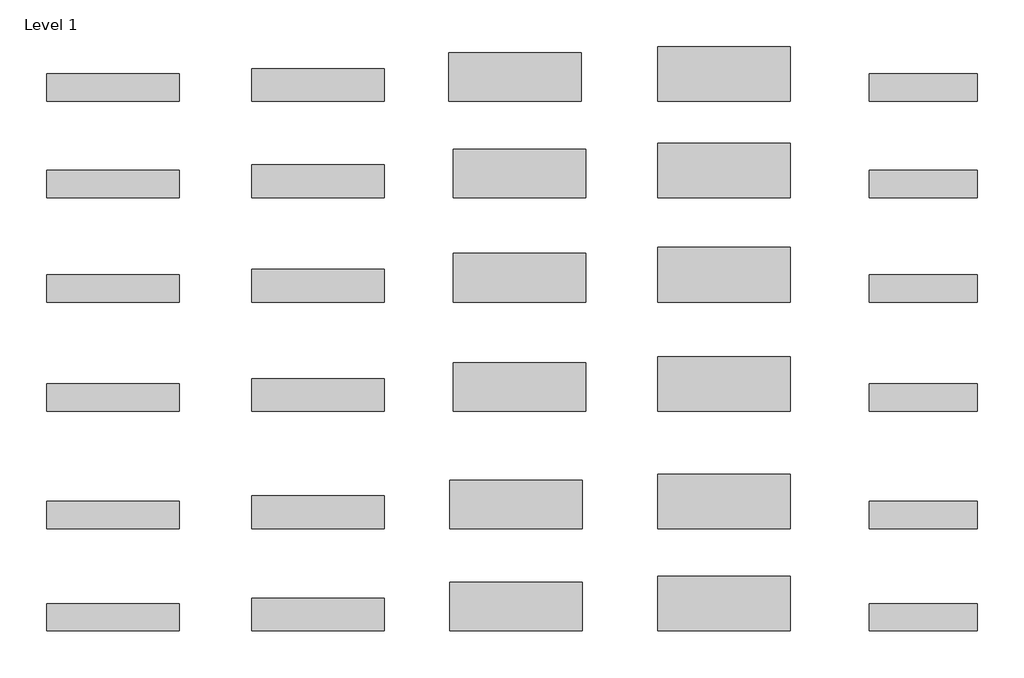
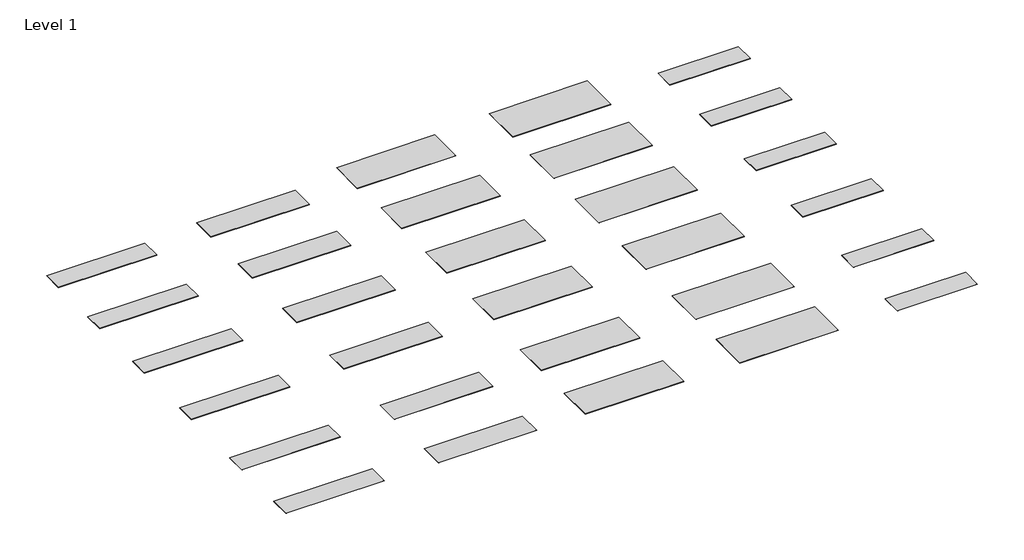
# One storey: 30 proxies.
"""IFC4 building model written with IfcOpenShell, lengths in millimetres."""

from ifc_helpers import new_model, si_unit, origin, place, context, project, spatial, transform, mapped, element, save
from components import generic_models_7f56e2ab, generic_models_a6e596b7, generic_models_ebb0e17e, generic_models_c2ce3097, generic_models_bc4f7f2a

model = new_model("IFC4")

# Units and contexts
model_context = context("Model", 3, world=origin())
ifc_project = project(units=[si_unit("LENGTHUNIT", "METRE", prefix="MILLI")], contexts=[model_context])

# Site, building, storey
site = spatial("IfcSite", under=ifc_project)
building = spatial("IfcBuilding", under=site)
storey = spatial("IfcBuildingStorey", under=building, Name="Level 1", Elevation=0.0)

# Proxies
placement = place(None, origin())
generic_models_shape = generic_models_7f56e2ab(model_context)
element("IfcBuildingElementProxy", 1, Name="Kitchen_Counter-Tops_Indoor-Material_HI-MACS_Volcanics : VA22_Frosty_12mm_760x3680mm", ObjectType="Kitchen_Counter-Tops_Indoor-Material_HI-MACS_Volcanics : VA22_Frosty_12mm_760x3680mm", at=placement, inside=storey, context=model_context, shape_type="MappedRepresentation", body=[
    mapped(generic_models_shape, transform((-20811.8590579, -10489.5098521, 0.0), x_axis=(1.0, 0.0, 0.0), y_axis=(0.0, 1.0, 0.0), z_axis=(0.0, 0.0, 1.0))),
])
element("IfcBuildingElementProxy", 2, Name="Kitchen_Counter-Tops_Indoor-Material_HI-MACS_Volcanics : VW01_Gemini_12mm_760x3680mm", ObjectType="Kitchen_Counter-Tops_Indoor-Material_HI-MACS_Volcanics : VW01_Gemini_12mm_760x3680mm", at=placement, inside=storey, context=model_context, shape_type="MappedRepresentation", body=[
    mapped(generic_models_shape, transform((-20811.8590579, 4227.8111796, 0.0), x_axis=(1.0, 0.0, 0.0), y_axis=(0.0, 1.0, 0.0), z_axis=(0.0, 0.0, 1.0))),
])
element("IfcBuildingElementProxy", 3, Name="Kitchen_Counter-Tops_Indoor-Material_HI-MACS_Volcanics : VG21_Maui_12mm_760x3680mm", ObjectType="Kitchen_Counter-Tops_Indoor-Material_HI-MACS_Volcanics : VG21_Maui_12mm_760x3680mm", at=placement, inside=storey, context=model_context, shape_type="MappedRepresentation", body=[
    mapped(generic_models_shape, transform((-20811.8590579, 1546.9863467, 0.0), x_axis=(1.0, 0.0, 0.0), y_axis=(0.0, 1.0, 0.0), z_axis=(0.0, 0.0, 1.0))),
])
element("IfcBuildingElementProxy", 4, Name="Kitchen_Counter-Tops_Indoor-Material_HI-MACS_Volcanics : VA01_Santa-Ana_12mm_760x3680mm", ObjectType="Kitchen_Counter-Tops_Indoor-Material_HI-MACS_Volcanics : VA01_Santa-Ana_12mm_760x3680mm", at=placement, inside=storey, context=model_context, shape_type="MappedRepresentation", body=[
    mapped(generic_models_shape, transform((-20811.8590579, -7648.7350843, 0.0), x_axis=(1.0, 0.0, 0.0), y_axis=(0.0, 1.0, 0.0), z_axis=(0.0, 0.0, 1.0))),
])
element("IfcBuildingElementProxy", 5, Name="Kitchen_Counter-Tops_Indoor-Material_HI-MACS_Volcanics : VE01_Tambora_12mm_760x3680mm", ObjectType="Kitchen_Counter-Tops_Indoor-Material_HI-MACS_Volcanics : VE01_Tambora_12mm_760x3680mm", at=placement, inside=storey, context=model_context, shape_type="MappedRepresentation", body=[
    mapped(generic_models_shape, transform((-20811.8590579, -4386.1881754, 0.0), x_axis=(1.0, 0.0, 0.0), y_axis=(0.0, 1.0, 0.0), z_axis=(0.0, 0.0, 1.0))),
])
generic_models_2_shape = generic_models_a6e596b7(model_context)
element("IfcBuildingElementProxy", 6, Name="Kitchen_Counter-Tops_Indoor-Material_HI-MACS_Volcanics : VW01_Gemini_20mm_760x3000mm", ObjectType="Kitchen_Counter-Tops_Indoor-Material_HI-MACS_Volcanics : VW01_Gemini_20mm_760x3000mm", at=placement, inside=storey, context=model_context, shape_type="MappedRepresentation", body=[
    mapped(generic_models_2_shape, transform((1711.211602, 4227.8111796, 0.0), x_axis=(1.0, 0.0, 0.0), y_axis=(0.0, 1.0, 0.0), z_axis=(0.0, 0.0, 1.0))),
])
element("IfcBuildingElementProxy", 7, Name="Kitchen_Counter-Tops_Indoor-Material_HI-MACS_Volcanics : VE01_Tambora_20mm_760x3000mm", ObjectType="Kitchen_Counter-Tops_Indoor-Material_HI-MACS_Volcanics : VE01_Tambora_20mm_760x3000mm", at=placement, inside=storey, context=model_context, shape_type="MappedRepresentation", body=[
    mapped(generic_models_2_shape, transform((1711.211602, -4386.1881754, 0.0), x_axis=(1.0, 0.0, 0.0), y_axis=(0.0, 1.0, 0.0), z_axis=(0.0, 0.0, 1.0))),
])
element("IfcBuildingElementProxy", 8, Name="Kitchen_Counter-Tops_Indoor-Material_HI-MACS_Volcanics : VA01_Santa-Ana_20mm_760x3000mm", ObjectType="Kitchen_Counter-Tops_Indoor-Material_HI-MACS_Volcanics : VA01_Santa-Ana_20mm_760x3000mm", at=placement, inside=storey, context=model_context, shape_type="MappedRepresentation", body=[
    mapped(generic_models_2_shape, transform((1711.211602, -7648.7350843, 0.0), x_axis=(1.0, 0.0, 0.0), y_axis=(0.0, 1.0, 0.0), z_axis=(0.0, 0.0, 1.0))),
])
element("IfcBuildingElementProxy", 9, Name="Kitchen_Counter-Tops_Indoor-Material_HI-MACS_Volcanics : VA22_Frosty_20mm_760x3000mm", ObjectType="Kitchen_Counter-Tops_Indoor-Material_HI-MACS_Volcanics : VA22_Frosty_20mm_760x3000mm", at=placement, inside=storey, context=model_context, shape_type="MappedRepresentation", body=[
    mapped(generic_models_2_shape, transform((1711.211602, -10489.5098521, 0.0), x_axis=(1.0, 0.0, 0.0), y_axis=(0.0, 1.0, 0.0), z_axis=(0.0, 0.0, 1.0))),
])
element("IfcBuildingElementProxy", 10, Name="Kitchen_Counter-Tops_Indoor-Material_HI-MACS_Volcanics : VG21_Maui_20mm_760x3000mm", ObjectType="Kitchen_Counter-Tops_Indoor-Material_HI-MACS_Volcanics : VG21_Maui_20mm_760x3000mm", at=placement, inside=storey, context=model_context, shape_type="MappedRepresentation", body=[
    mapped(generic_models_2_shape, transform((1711.211602, 1546.9863467, 0.0), x_axis=(1.0, 0.0, 0.0), y_axis=(0.0, 1.0, 0.0), z_axis=(0.0, 0.0, 1.0))),
])
generic_models_3_shape = generic_models_ebb0e17e(model_context)
element("IfcBuildingElementProxy", 11, Name="Kitchen_Counter-Tops_Indoor-Material_HI-MACS_Volcanics : VW01_Gemini_12mm_910x3680mm", ObjectType="Kitchen_Counter-Tops_Indoor-Material_HI-MACS_Volcanics : VW01_Gemini_12mm_910x3680mm", at=placement, inside=storey, context=model_context, shape_type="MappedRepresentation", body=[
    mapped(generic_models_3_shape, transform((-15111.8590579, 4302.8111796, 0.0), x_axis=(1.0, 0.0, 0.0), y_axis=(0.0, 1.0, 0.0), z_axis=(0.0, 0.0, 1.0))),
])
generic_models_4_shape = generic_models_c2ce3097(model_context)
element("IfcBuildingElementProxy", 12, Name="Kitchen_Counter-Tops_Indoor-Material_HI-MACS_Volcanics : VW01_Gemini_12mm_1350x3680mm", ObjectType="Kitchen_Counter-Tops_Indoor-Material_HI-MACS_Volcanics : VW01_Gemini_12mm_1350x3680mm", at=placement, inside=storey, context=model_context, shape_type="MappedRepresentation", body=[
    mapped(generic_models_4_shape, transform((-9631.8590579, 4522.8111796, 0.0), x_axis=(1.0, 0.0, 0.0), y_axis=(0.0, 1.0, 0.0), z_axis=(0.0, 0.0, 1.0))),
])
generic_models_5_shape = generic_models_bc4f7f2a(model_context)
element("IfcBuildingElementProxy", 13, Name="Kitchen_Counter-Tops_Indoor-Material_HI-MACS_Volcanics : VW01_Gemini_12mm_1520x3680mm", ObjectType="Kitchen_Counter-Tops_Indoor-Material_HI-MACS_Volcanics : VW01_Gemini_12mm_1520x3680mm", at=placement, inside=storey, context=model_context, shape_type="MappedRepresentation", body=[
    mapped(generic_models_5_shape, transform((-3831.8590579, 4607.8111796, 0.0), x_axis=(1.0, 0.0, 0.0), y_axis=(0.0, 1.0, 0.0), z_axis=(0.0, 0.0, 1.0))),
])
element("IfcBuildingElementProxy", 14, Name="Kitchen_Counter-Tops_Indoor-Material_HI-MACS_Volcanics : VG21_Maui_12mm_910x3680mm", ObjectType="Kitchen_Counter-Tops_Indoor-Material_HI-MACS_Volcanics : VG21_Maui_12mm_910x3680mm", at=placement, inside=storey, context=model_context, shape_type="MappedRepresentation", body=[
    mapped(generic_models_3_shape, transform((-15111.8590579, 1621.9863467, 0.0), x_axis=(1.0, 0.0, 0.0), y_axis=(0.0, 1.0, 0.0), z_axis=(0.0, 0.0, 1.0))),
])
element("IfcBuildingElementProxy", 15, Name="Kitchen_Counter-Tops_Indoor-Material_HI-MACS_Volcanics : VG21_Maui_12mm_1350x3680mm", ObjectType="Kitchen_Counter-Tops_Indoor-Material_HI-MACS_Volcanics : VG21_Maui_12mm_1350x3680mm", at=placement, inside=storey, context=model_context, shape_type="MappedRepresentation", body=[
    mapped(generic_models_4_shape, transform((-9511.8590579, 1841.9863467, 0.0), x_axis=(1.0, 0.0, 0.0), y_axis=(0.0, 1.0, 0.0), z_axis=(0.0, 0.0, 1.0))),
])
element("IfcBuildingElementProxy", 16, Name="Kitchen_Counter-Tops_Indoor-Material_HI-MACS_Volcanics : VG21_Maui_12mm_1520x3680mm", ObjectType="Kitchen_Counter-Tops_Indoor-Material_HI-MACS_Volcanics : VG21_Maui_12mm_1520x3680mm", at=placement, inside=storey, context=model_context, shape_type="MappedRepresentation", body=[
    mapped(generic_models_5_shape, transform((-3831.8590579, 1926.9863467, 0.0), x_axis=(1.0, 0.0, 0.0), y_axis=(0.0, 1.0, 0.0), z_axis=(0.0, 0.0, 1.0))),
])
element("IfcBuildingElementProxy", 17, Name="Kitchen_Counter-Tops_Indoor-Material_HI-MACS_Volcanics : VE01_Tambora_12mm_910x3680mm", ObjectType="Kitchen_Counter-Tops_Indoor-Material_HI-MACS_Volcanics : VE01_Tambora_12mm_910x3680mm", at=placement, inside=storey, context=model_context, shape_type="MappedRepresentation", body=[
    mapped(generic_models_3_shape, transform((-15111.8590579, -4311.1881754, 0.0), x_axis=(1.0, 0.0, 0.0), y_axis=(0.0, 1.0, 0.0), z_axis=(0.0, 0.0, 1.0))),
])
element("IfcBuildingElementProxy", 18, Name="Kitchen_Counter-Tops_Indoor-Material_HI-MACS_Volcanics : VE01_Tambora_12mm_1350x3680mm", ObjectType="Kitchen_Counter-Tops_Indoor-Material_HI-MACS_Volcanics : VE01_Tambora_12mm_1350x3680mm", at=placement, inside=storey, context=model_context, shape_type="MappedRepresentation", body=[
    mapped(generic_models_4_shape, transform((-9511.8590579, -4091.1881754, 0.0), x_axis=(1.0, 0.0, 0.0), y_axis=(0.0, 1.0, 0.0), z_axis=(0.0, 0.0, 1.0))),
])
element("IfcBuildingElementProxy", 19, Name="Kitchen_Counter-Tops_Indoor-Material_HI-MACS_Volcanics : VE01_Tambora_12mm_1520x3680mm", ObjectType="Kitchen_Counter-Tops_Indoor-Material_HI-MACS_Volcanics : VE01_Tambora_12mm_1520x3680mm", at=placement, inside=storey, context=model_context, shape_type="MappedRepresentation", body=[
    mapped(generic_models_5_shape, transform((-3831.8590579, -4006.1881754, 0.0), x_axis=(1.0, 0.0, 0.0), y_axis=(0.0, 1.0, 0.0), z_axis=(0.0, 0.0, 1.0))),
])
element("IfcBuildingElementProxy", 20, Name="Kitchen_Counter-Tops_Indoor-Material_HI-MACS_Volcanics : VA01_Santa-Ana_12mm_910x3680mm", ObjectType="Kitchen_Counter-Tops_Indoor-Material_HI-MACS_Volcanics : VA01_Santa-Ana_12mm_910x3680mm", at=placement, inside=storey, context=model_context, shape_type="MappedRepresentation", body=[
    mapped(generic_models_3_shape, transform((-15111.8590579, -7573.7350843, 0.0), x_axis=(1.0, 0.0, 0.0), y_axis=(0.0, 1.0, 0.0), z_axis=(0.0, 0.0, 1.0))),
])
element("IfcBuildingElementProxy", 21, Name="Kitchen_Counter-Tops_Indoor-Material_HI-MACS_Volcanics : VA01_Santa-Ana_12mm_1350x3680mm", ObjectType="Kitchen_Counter-Tops_Indoor-Material_HI-MACS_Volcanics : VA01_Santa-Ana_12mm_1350x3680mm", at=placement, inside=storey, context=model_context, shape_type="MappedRepresentation", body=[
    mapped(generic_models_4_shape, transform((-9611.8590579, -7353.7350843, 0.0), x_axis=(1.0, 0.0, 0.0), y_axis=(0.0, 1.0, 0.0), z_axis=(0.0, 0.0, 1.0))),
])
element("IfcBuildingElementProxy", 22, Name="Kitchen_Counter-Tops_Indoor-Material_HI-MACS_Volcanics : VA01_Santa-Ana_12mm_1520x3680mm", ObjectType="Kitchen_Counter-Tops_Indoor-Material_HI-MACS_Volcanics : VA01_Santa-Ana_12mm_1520x3680mm", at=placement, inside=storey, context=model_context, shape_type="MappedRepresentation", body=[
    mapped(generic_models_5_shape, transform((-3831.8590579, -7268.7350843, 0.0), x_axis=(1.0, 0.0, 0.0), y_axis=(0.0, 1.0, 0.0), z_axis=(0.0, 0.0, 1.0))),
])
element("IfcBuildingElementProxy", 23, Name="Kitchen_Counter-Tops_Indoor-Material_HI-MACS_Volcanics : VA22_Frosty_12mm_910x3680mm", ObjectType="Kitchen_Counter-Tops_Indoor-Material_HI-MACS_Volcanics : VA22_Frosty_12mm_910x3680mm", at=placement, inside=storey, context=model_context, shape_type="MappedRepresentation", body=[
    mapped(generic_models_3_shape, transform((-15111.8590579, -10414.5098521, 0.0), x_axis=(1.0, 0.0, 0.0), y_axis=(0.0, 1.0, 0.0), z_axis=(0.0, 0.0, 1.0))),
])
element("IfcBuildingElementProxy", 24, Name="Kitchen_Counter-Tops_Indoor-Material_HI-MACS_Volcanics : VA22_Frosty_12mm_1350x3680mm", ObjectType="Kitchen_Counter-Tops_Indoor-Material_HI-MACS_Volcanics : VA22_Frosty_12mm_1350x3680mm", at=placement, inside=storey, context=model_context, shape_type="MappedRepresentation", body=[
    mapped(generic_models_4_shape, transform((-9611.8590579, -10194.5098521, 0.0), x_axis=(1.0, 0.0, 0.0), y_axis=(0.0, 1.0, 0.0), z_axis=(0.0, 0.0, 1.0))),
])
element("IfcBuildingElementProxy", 25, Name="Kitchen_Counter-Tops_Indoor-Material_HI-MACS_Volcanics : VA22_Frosty_12mm_1520x3680mm", ObjectType="Kitchen_Counter-Tops_Indoor-Material_HI-MACS_Volcanics : VA22_Frosty_12mm_1520x3680mm", at=placement, inside=storey, context=model_context, shape_type="MappedRepresentation", body=[
    mapped(generic_models_5_shape, transform((-3831.8590579, -10109.5098521, 0.0), x_axis=(1.0, 0.0, 0.0), y_axis=(0.0, 1.0, 0.0), z_axis=(0.0, 0.0, 1.0))),
])
element("IfcBuildingElementProxy", 26, Name="Kitchen_Counter-Tops_Indoor-Material_HI-MACS_Volcanics : VB02_Cima_12mm_1350x3680mm", ObjectType="Kitchen_Counter-Tops_Indoor-Material_HI-MACS_Volcanics : VB02_Cima_12mm_1350x3680mm", at=placement, inside=storey, context=model_context, shape_type="MappedRepresentation", body=[
    mapped(generic_models_4_shape, transform((-9511.8590579, -1056.2140637, 0.0), x_axis=(1.0, 0.0, 0.0), y_axis=(0.0, 1.0, 0.0), z_axis=(0.0, 0.0, 1.0))),
])
element("IfcBuildingElementProxy", 27, Name="Kitchen_Counter-Tops_Indoor-Material_HI-MACS_Volcanics : VB02_Cima_12mm_1520x3680mm", ObjectType="Kitchen_Counter-Tops_Indoor-Material_HI-MACS_Volcanics : VB02_Cima_12mm_1520x3680mm", at=placement, inside=storey, context=model_context, shape_type="MappedRepresentation", body=[
    mapped(generic_models_5_shape, transform((-3831.8590579, -971.2140637, 0.0), x_axis=(1.0, 0.0, 0.0), y_axis=(0.0, 1.0, 0.0), z_axis=(0.0, 0.0, 1.0))),
])
element("IfcBuildingElementProxy", 28, Name="Kitchen_Counter-Tops_Indoor-Material_HI-MACS_Volcanics : VB02_Cima_12mm_760x3680mm", ObjectType="Kitchen_Counter-Tops_Indoor-Material_HI-MACS_Volcanics : VB02_Cima_12mm_760x3680mm", at=placement, inside=storey, context=model_context, shape_type="MappedRepresentation", body=[
    mapped(generic_models_shape, transform((-20811.8590579, -1351.2140637, 0.0), x_axis=(1.0, 0.0, 0.0), y_axis=(0.0, 1.0, 0.0), z_axis=(0.0, 0.0, 1.0))),
])
element("IfcBuildingElementProxy", 29, Name="Kitchen_Counter-Tops_Indoor-Material_HI-MACS_Volcanics : VB02_Cima_12mm_910x3680mm", ObjectType="Kitchen_Counter-Tops_Indoor-Material_HI-MACS_Volcanics : VB02_Cima_12mm_910x3680mm", at=placement, inside=storey, context=model_context, shape_type="MappedRepresentation", body=[
    mapped(generic_models_3_shape, transform((-15111.8590579, -1276.2140637, 0.0), x_axis=(1.0, 0.0, 0.0), y_axis=(0.0, 1.0, 0.0), z_axis=(0.0, 0.0, 1.0))),
])
element("IfcBuildingElementProxy", 30, Name="Kitchen_Counter-Tops_Indoor-Material_HI-MACS_Volcanics : VB02_Cima_20mm_760x3000mm", ObjectType="Kitchen_Counter-Tops_Indoor-Material_HI-MACS_Volcanics : VB02_Cima_20mm_760x3000mm", at=placement, inside=storey, context=model_context, shape_type="MappedRepresentation", body=[
    mapped(generic_models_2_shape, transform((1711.211602, -1351.2140637, 0.0), x_axis=(1.0, 0.0, 0.0), y_axis=(0.0, 1.0, 0.0), z_axis=(0.0, 0.0, 1.0))),
])

save(model, "model.ifc")
